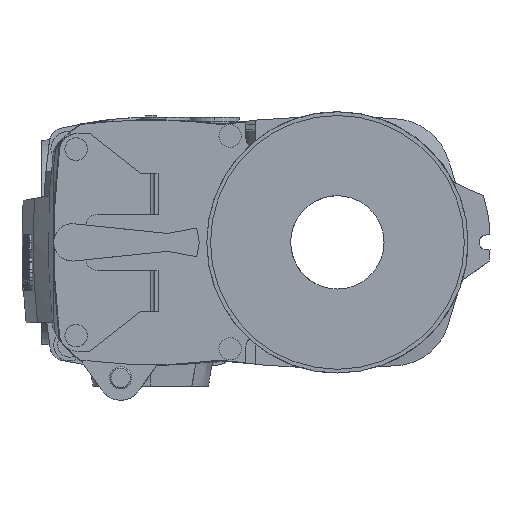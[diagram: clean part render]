
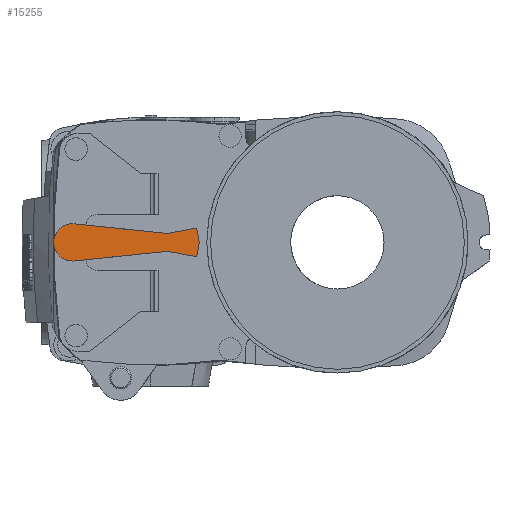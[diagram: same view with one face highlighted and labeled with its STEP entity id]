
A CAD part, left-side view. The second image highlights one B-rep face of the part: STEP entity #15255.
In plain terms, the highlighted planar face has unit normal (-1, 0, 0).
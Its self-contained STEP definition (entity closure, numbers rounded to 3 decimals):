
#612 = CARTESIAN_POINT ( 'NONE',  ( 396., 140.967, 1504.946 ) ) ;
#1542 = CARTESIAN_POINT ( 'NONE',  ( 396., 148.145, 1502.997 ) ) ;
#2086 = DIRECTION ( 'NONE',  ( 0., -0.983, -0.181 ) ) ;
#2987 = EDGE_LOOP ( 'NONE', ( #12405, #23977, #25997, #27983, #40386, #29508, #23016, #10979, #29028 ) ) ;
#3021 = B_SPLINE_CURVE_WITH_KNOTS ( 'NONE', 3,
 ( #30240, #20789, #4668, #27210, #7909, #30375, #11196, #33544, #14461, #36723, #17744, #39926, #20920, #1542, #24104, #4803, #27343, #8046 ),
 .UNSPECIFIED., .F., .F.,
 ( 4, 2, 2, 2, 2, 2, 2, 2, 4 ),
 ( 0., 0.125, 0.25, 0.375, 0.5, 0.625, 0.75, 0.875, 1. ),
 .UNSPECIFIED. ) ;
#4668 = CARTESIAN_POINT ( 'NONE',  ( 396., 144.617, 1485.26 ) ) ;
#4803 = CARTESIAN_POINT ( 'NONE',  ( 396., 144.617, 1504.74 ) ) ;
#5232 = LINE ( 'NONE', #30115, #30865 ) ;
#5595 = CARTESIAN_POINT ( 'NONE',  ( 396., 140.967, 1485.054 ) ) ;
#6579 = VECTOR ( 'NONE', #16019, 1000. ) ;
#7201 = CARTESIAN_POINT ( 'NONE',  ( 396., 140.967, 1504.946 ) ) ;
#7674 = VECTOR ( 'NONE', #31701, 1000. ) ;
#7909 = CARTESIAN_POINT ( 'NONE',  ( 396., 148.145, 1487.003 ) ) ;
#8046 = CARTESIAN_POINT ( 'NONE',  ( 396., 142., 1505. ) ) ;
#9910 = B_SPLINE_CURVE_WITH_KNOTS ( 'NONE', 3,
 ( #35895, #16900, #26509, #7201 ),
 .UNSPECIFIED., .F., .F.,
 ( 4, 4 ),
 ( 0., 1. ),
 .UNSPECIFIED. ) ;
#10006 = CARTESIAN_POINT ( 'NONE',  ( 396., 141.31, 1485.018 ) ) ;
#10934 = VERTEX_POINT ( 'NONE', #22399 ) ;
#10979 = ORIENTED_EDGE ( 'NONE', *, *, #24015, .F. ) ;
#11196 = CARTESIAN_POINT ( 'NONE',  ( 396., 150.738, 1489.964 ) ) ;
#11798 = VERTEX_POINT ( 'NONE', #36543 ) ;
#12405 = ORIENTED_EDGE ( 'NONE', *, *, #29398, .T. ) ;
#12697 = EDGE_CURVE ( 'NONE', #26528, #35917, #23801, .T. ) ;
#12716 = CARTESIAN_POINT ( 'NONE',  ( 396., 92.68, 1499.478 ) ) ;
#13273 = CARTESIAN_POINT ( 'NONE',  ( 396., 142., 1485. ) ) ;
#13855 = EDGE_CURVE ( 'NONE', #37840, #10934, #22208, .T. ) ;
#14461 = CARTESIAN_POINT ( 'NONE',  ( 396., 152., 1493.691 ) ) ;
#14972 = DIRECTION ( 'NONE',  ( 0., -0.181, 0.983 ) ) ;
#15231 = LINE ( 'NONE', #12716, #6579 ) ;
#15255 = ADVANCED_FACE ( 'NONE', ( #19454 ), #22590, .T. ) ;
#16019 = DIRECTION ( 'NONE',  ( 0., 0.983, -0.181 ) ) ;
#16736 = DIRECTION ( 'NONE',  ( 0., 0., 1. ) ) ;
#16900 = CARTESIAN_POINT ( 'NONE',  ( 396., 141.655, 1505. ) ) ;
#17673 = CARTESIAN_POINT ( 'NONE',  ( 396., 73.957, 1495. ) ) ;
#17744 = CARTESIAN_POINT ( 'NONE',  ( 396., 151.74, 1497.617 ) ) ;
#19454 = FACE_OUTER_BOUND ( 'NONE', #2987, .T. ) ;
#20055 = CARTESIAN_POINT ( 'NONE',  ( 396., 75.514, 1503.438 ) ) ;
#20579 = VECTOR ( 'NONE', #23236, 1000. ) ;
#20660 = CARTESIAN_POINT ( 'NONE',  ( 396., 75.372, 1502.671 ) ) ;
#20789 = CARTESIAN_POINT ( 'NONE',  ( 396., 143.309, 1485. ) ) ;
#20803 = DIRECTION ( 'NONE',  ( 0., -0.995, 0.103 ) ) ;
#20920 = CARTESIAN_POINT ( 'NONE',  ( 396., 149.997, 1501.145 ) ) ;
#21104 = CARTESIAN_POINT ( 'NONE',  ( 396., 91.107, 1490.232 ) ) ;
#22113 = CARTESIAN_POINT ( 'NONE',  ( 396., 145.953, 1505.464 ) ) ;
#22208 = LINE ( 'NONE', #40454, #39083 ) ;
#22255 = VECTOR ( 'NONE', #14972, 1000. ) ;
#22399 = CARTESIAN_POINT ( 'NONE',  ( 396., 75.372, 1487.329 ) ) ;
#22590 = PLANE ( 'NONE',  #41393 ) ;
#23016 = ORIENTED_EDGE ( 'NONE', *, *, #34886, .F. ) ;
#23236 = DIRECTION ( 'NONE',  ( 0., 0.181, 0.983 ) ) ;
#23801 = LINE ( 'NONE', #22113, #7674 ) ;
#23977 = ORIENTED_EDGE ( 'NONE', *, *, #13855, .T. ) ;
#24015 = EDGE_CURVE ( 'NONE', #36902, #11798, #3021, .T. ) ;
#24104 = CARTESIAN_POINT ( 'NONE',  ( 396., 147.036, 1503.738 ) ) ;
#24516 = VERTEX_POINT ( 'NONE', #17673 ) ;
#25508 = VERTEX_POINT ( 'NONE', #20660 ) ;
#25997 = ORIENTED_EDGE ( 'NONE', *, *, #32522, .T. ) ;
#26509 = CARTESIAN_POINT ( 'NONE',  ( 396., 141.31, 1504.982 ) ) ;
#26528 = VERTEX_POINT ( 'NONE', #40132 ) ;
#27210 = CARTESIAN_POINT ( 'NONE',  ( 396., 147.036, 1486.262 ) ) ;
#27343 = CARTESIAN_POINT ( 'NONE',  ( 396., 143.309, 1505. ) ) ;
#27983 = ORIENTED_EDGE ( 'NONE', *, *, #37545, .T. ) ;
#29028 = ORIENTED_EDGE ( 'NONE', *, *, #35442, .F. ) ;
#29243 = CARTESIAN_POINT ( 'NONE',  ( 396., 140.967, 1485.054 ) ) ;
#29398 = EDGE_CURVE ( 'NONE', #30172, #37840, #5232, .T. ) ;
#29508 = ORIENTED_EDGE ( 'NONE', *, *, #12697, .T. ) ;
#29739 = LINE ( 'NONE', #37203, #22255 ) ;
#30115 = CARTESIAN_POINT ( 'NONE',  ( 396., 86.121, 1490.75 ) ) ;
#30172 = VERTEX_POINT ( 'NONE', #5595 ) ;
#30240 = CARTESIAN_POINT ( 'NONE',  ( 396., 142., 1485. ) ) ;
#30375 = CARTESIAN_POINT ( 'NONE',  ( 396., 149.997, 1488.855 ) ) ;
#30463 = B_SPLINE_CURVE_WITH_KNOTS ( 'NONE', 3,
 ( #29243, #10006, #32383, #13273 ),
 .UNSPECIFIED., .F., .F.,
 ( 4, 4 ),
 ( 0., 1. ),
 .UNSPECIFIED. ) ;
#30865 = VECTOR ( 'NONE', #20803, 1000. ) ;
#31701 = DIRECTION ( 'NONE',  ( 0., 0.995, 0.103 ) ) ;
#32383 = CARTESIAN_POINT ( 'NONE',  ( 396., 141.655, 1485. ) ) ;
#32522 = EDGE_CURVE ( 'NONE', #10934, #24516, #29739, .T. ) ;
#32547 = CARTESIAN_POINT ( 'NONE',  ( 396., 69.136, 1524.603 ) ) ;
#32887 = CARTESIAN_POINT ( 'NONE',  ( 396., 142., 1485. ) ) ;
#33320 = EDGE_CURVE ( 'NONE', #25508, #26528, #15231, .T. ) ;
#33544 = CARTESIAN_POINT ( 'NONE',  ( 396., 151.74, 1492.383 ) ) ;
#34886 = EDGE_CURVE ( 'NONE', #11798, #35917, #9910, .T. ) ;
#35442 = EDGE_CURVE ( 'NONE', #30172, #36902, #30463, .T. ) ;
#35740 = DIRECTION ( 'NONE',  ( -1., 0., 0. ) ) ;
#35895 = CARTESIAN_POINT ( 'NONE',  ( 396., 142., 1505. ) ) ;
#35917 = VERTEX_POINT ( 'NONE', #612 ) ;
#36435 = LINE ( 'NONE', #20055, #20579 ) ;
#36543 = CARTESIAN_POINT ( 'NONE',  ( 396., 142., 1505. ) ) ;
#36723 = CARTESIAN_POINT ( 'NONE',  ( 396., 152., 1496.309 ) ) ;
#36902 = VERTEX_POINT ( 'NONE', #32887 ) ;
#37203 = CARTESIAN_POINT ( 'NONE',  ( 396., 73.816, 1495.767 ) ) ;
#37545 = EDGE_CURVE ( 'NONE', #24516, #25508, #36435, .T. ) ;
#37840 = VERTEX_POINT ( 'NONE', #21104 ) ;
#39083 = VECTOR ( 'NONE', #2086, 1000. ) ;
#39926 = CARTESIAN_POINT ( 'NONE',  ( 396., 150.738, 1500.036 ) ) ;
#40132 = CARTESIAN_POINT ( 'NONE',  ( 396., 91.107, 1499.768 ) ) ;
#40386 = ORIENTED_EDGE ( 'NONE', *, *, #33320, .T. ) ;
#40454 = CARTESIAN_POINT ( 'NONE',  ( 396., 73.799, 1487.039 ) ) ;
#41393 = AXIS2_PLACEMENT_3D ( 'NONE', #32547, #35740, #16736 ) ;
